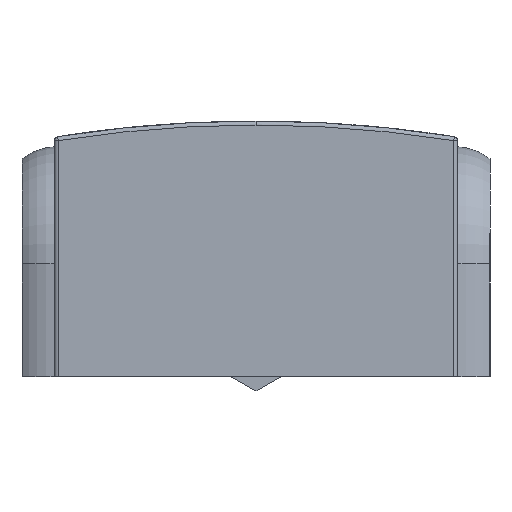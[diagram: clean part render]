
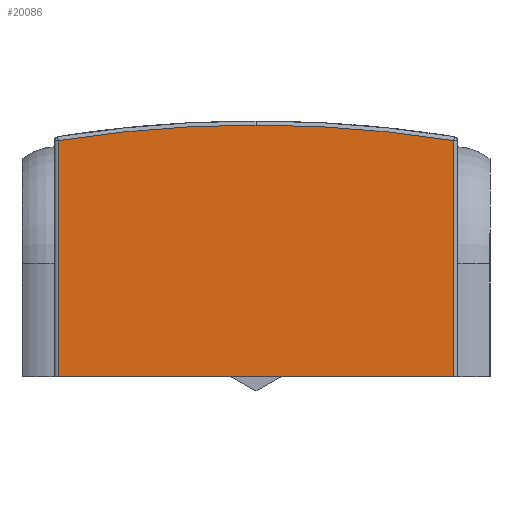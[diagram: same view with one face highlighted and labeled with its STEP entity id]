
A CAD part, front view. The second image highlights one B-rep face of the part: STEP entity #20086.
In plain terms, the highlighted planar face has unit normal (0, -1, 0).
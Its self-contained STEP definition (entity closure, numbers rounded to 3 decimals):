
#82 = VECTOR ( 'NONE', #13241, 1000. ) ;
#1355 = DIRECTION ( 'NONE',  ( 0., 0., 1. ) ) ;
#2173 = CARTESIAN_POINT ( 'NONE',  ( 24.5, -26., 31.7 ) ) ;
#2224 = ORIENTED_EDGE ( 'NONE', *, *, #9291, .F. ) ;
#2964 = EDGE_CURVE ( 'NONE', #17291, #2985, #3139, .T. ) ;
#2985 = VERTEX_POINT ( 'NONE', #9764 ) ;
#3139 = LINE ( 'NONE', #12769, #18260 ) ;
#3207 = CARTESIAN_POINT ( 'NONE',  ( 0., -26., -125.6 ) ) ;
#4882 = CARTESIAN_POINT ( 'NONE',  ( 0., -26., -125.6 ) ) ;
#4972 = DIRECTION ( 'NONE',  ( 0., -1., 0. ) ) ;
#5092 = CARTESIAN_POINT ( 'NONE',  ( 24.5, -26., 0. ) ) ;
#5424 = PLANE ( 'NONE',  #8480 ) ;
#5475 = VERTEX_POINT ( 'NONE', #18820 ) ;
#6085 = CIRCLE ( 'NONE', #12697, 156.8 ) ;
#6385 = ORIENTED_EDGE ( 'NONE', *, *, #17811, .T. ) ;
#6533 = DIRECTION ( 'NONE',  ( 0., 0., 1. ) ) ;
#6669 = CARTESIAN_POINT ( 'NONE',  ( 24.5, -26., 31.7 ) ) ;
#8480 = AXIS2_PLACEMENT_3D ( 'NONE', #6669, #11751, #12989 ) ;
#8699 = LINE ( 'NONE', #5092, #12094 ) ;
#9291 = EDGE_CURVE ( 'NONE', #5475, #18255, #13358, .T. ) ;
#9471 = DIRECTION ( 'NONE',  ( 0., 0., -1. ) ) ;
#9764 = CARTESIAN_POINT ( 'NONE',  ( -24.5, -26., 0. ) ) ;
#10107 = CARTESIAN_POINT ( 'NONE',  ( 24.5, -26., 0. ) ) ;
#10836 = ORIENTED_EDGE ( 'NONE', *, *, #19218, .T. ) ;
#11126 = CARTESIAN_POINT ( 'NONE',  ( 0., -26., 31.2 ) ) ;
#11210 = DIRECTION ( 'NONE',  ( 1., 0., 0. ) ) ;
#11723 = CIRCLE ( 'NONE', #17999, 156.8 ) ;
#11751 = DIRECTION ( 'NONE',  ( 0., 1., 0. ) ) ;
#12094 = VECTOR ( 'NONE', #11210, 1000. ) ;
#12685 = CARTESIAN_POINT ( 'NONE',  ( -24.5, -26., 29.274 ) ) ;
#12697 = AXIS2_PLACEMENT_3D ( 'NONE', #3207, #20396, #1355 ) ;
#12769 = CARTESIAN_POINT ( 'NONE',  ( -24.5, -26., 31.7 ) ) ;
#12853 = ORIENTED_EDGE ( 'NONE', *, *, #2964, .T. ) ;
#12908 = ORIENTED_EDGE ( 'NONE', *, *, #13889, .T. ) ;
#12989 = DIRECTION ( 'NONE',  ( 0., 0., 1. ) ) ;
#13241 = DIRECTION ( 'NONE',  ( 0., 0., -1. ) ) ;
#13358 = LINE ( 'NONE', #2173, #82 ) ;
#13384 = VERTEX_POINT ( 'NONE', #11126 ) ;
#13889 = EDGE_CURVE ( 'NONE', #13384, #17291, #6085, .T. ) ;
#16659 = EDGE_LOOP ( 'NONE', ( #2224, #6385, #12908, #12853, #10836 ) ) ;
#17291 = VERTEX_POINT ( 'NONE', #12685 ) ;
#17811 = EDGE_CURVE ( 'NONE', #5475, #13384, #11723, .T. ) ;
#17999 = AXIS2_PLACEMENT_3D ( 'NONE', #4882, #4972, #6533 ) ;
#18255 = VERTEX_POINT ( 'NONE', #10107 ) ;
#18260 = VECTOR ( 'NONE', #9471, 1000. ) ;
#18820 = CARTESIAN_POINT ( 'NONE',  ( 24.5, -26., 29.274 ) ) ;
#19218 = EDGE_CURVE ( 'NONE', #2985, #18255, #8699, .T. ) ;
#19604 = FACE_OUTER_BOUND ( 'NONE', #16659, .T. ) ;
#20086 = ADVANCED_FACE ( 'NONE', ( #19604 ), #5424, .F. ) ;
#20396 = DIRECTION ( 'NONE',  ( 0., -1., 0. ) ) ;
